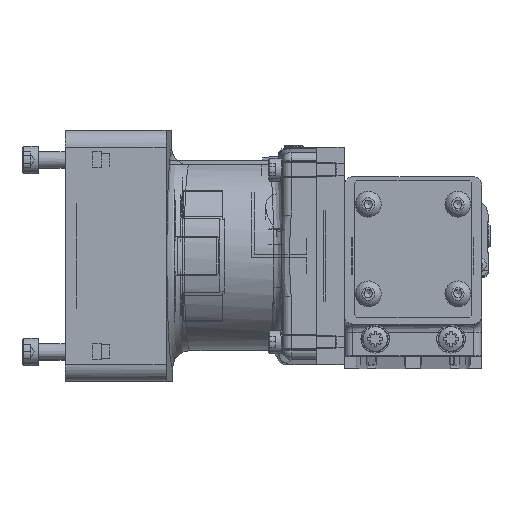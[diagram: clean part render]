
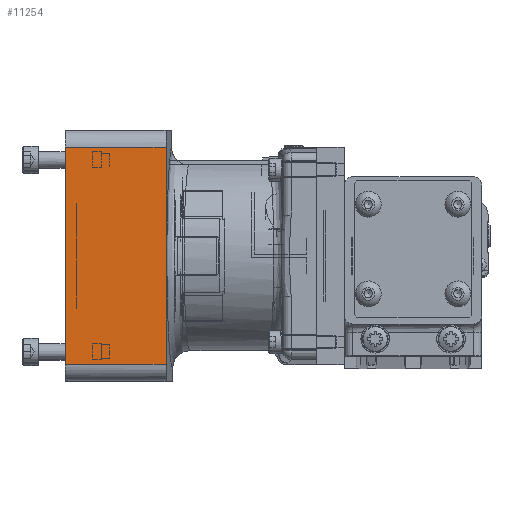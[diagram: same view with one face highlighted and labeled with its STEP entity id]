
A CAD part, top view. The second image highlights one B-rep face of the part: STEP entity #11254.
In plain terms, the highlighted planar face has unit normal (0, 0, 1) as drawn and (1, 0, 0) by its records, which use the part's own axes.
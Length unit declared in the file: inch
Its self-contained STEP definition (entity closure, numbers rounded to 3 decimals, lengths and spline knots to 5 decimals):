
#777 = EDGE_CURVE ( 'NONE', #25563, #12085, #27983, .T. ) ;
#2449 = ORIENTED_EDGE ( 'NONE', *, *, #777, .T. ) ;
#4748 = LINE ( 'NONE', #24507, #27244 ) ;
#6275 = EDGE_LOOP ( 'NONE', ( #2449, #14546, #43169, #25936 ) ) ;
#6676 = FACE_OUTER_BOUND ( 'NONE', #6275, .T. ) ;
#7491 = EDGE_CURVE ( 'NONE', #12085, #42485, #4748, .T. ) ;
#7696 = VECTOR ( 'NONE', #44677, 39.37008 ) ;
#9550 = CARTESIAN_POINT ( 'NONE',  ( 1.82235, -1.57235, 3.26035 ) ) ;
#10193 = CARTESIAN_POINT ( 'NONE',  ( 1.82235, -1.57235, 5.0478 ) ) ;
#11254 = ADVANCED_FACE ( 'NONE', ( #6676 ), #23959, .T. ) ;
#11603 = DIRECTION ( 'NONE',  ( 1., 0., 0. ) ) ;
#11874 = CARTESIAN_POINT ( 'NONE',  ( 1.82235, -1.57235, 3.26035 ) ) ;
#12085 = VERTEX_POINT ( 'NONE', #33562 ) ;
#13394 = DIRECTION ( 'NONE',  ( 0., 0., 1. ) ) ;
#14546 = ORIENTED_EDGE ( 'NONE', *, *, #7491, .T. ) ;
#15443 = DIRECTION ( 'NONE',  ( 0., 1., 0. ) ) ;
#18233 = AXIS2_PLACEMENT_3D ( 'NONE', #11874, #11603, #15443 ) ;
#22405 = CARTESIAN_POINT ( 'NONE',  ( 1.82235, -1.57235, 5.0478 ) ) ;
#22914 = VECTOR ( 'NONE', #26909, 39.37008 ) ;
#23959 = PLANE ( 'NONE',  #18233 ) ;
#24507 = CARTESIAN_POINT ( 'NONE',  ( 1.82235, 1.57235, 3.26035 ) ) ;
#25563 = VERTEX_POINT ( 'NONE', #30186 ) ;
#25936 = ORIENTED_EDGE ( 'NONE', *, *, #52673, .F. ) ;
#26909 = DIRECTION ( 'NONE',  ( 0., 1., 0. ) ) ;
#26983 = EDGE_CURVE ( 'NONE', #37022, #42485, #31022, .T. ) ;
#27244 = VECTOR ( 'NONE', #45303, 39.37008 ) ;
#27983 = LINE ( 'NONE', #53715, #7696 ) ;
#28682 = VECTOR ( 'NONE', #13394, 39.37008 ) ;
#30186 = CARTESIAN_POINT ( 'NONE',  ( 1.82235, -1.57235, 3.58282 ) ) ;
#30372 = LINE ( 'NONE', #9550, #28682 ) ;
#31022 = LINE ( 'NONE', #10193, #22914 ) ;
#33562 = CARTESIAN_POINT ( 'NONE',  ( 1.82235, 1.57235, 3.58282 ) ) ;
#37022 = VERTEX_POINT ( 'NONE', #22405 ) ;
#38650 = CARTESIAN_POINT ( 'NONE',  ( 1.82235, 1.57235, 5.0478 ) ) ;
#42485 = VERTEX_POINT ( 'NONE', #38650 ) ;
#43169 = ORIENTED_EDGE ( 'NONE', *, *, #26983, .F. ) ;
#44677 = DIRECTION ( 'NONE',  ( 0., 1., 0. ) ) ;
#45303 = DIRECTION ( 'NONE',  ( 0., 0., 1. ) ) ;
#52673 = EDGE_CURVE ( 'NONE', #25563, #37022, #30372, .T. ) ;
#53715 = CARTESIAN_POINT ( 'NONE',  ( 1.82235, -1.63619, 3.58282 ) ) ;
